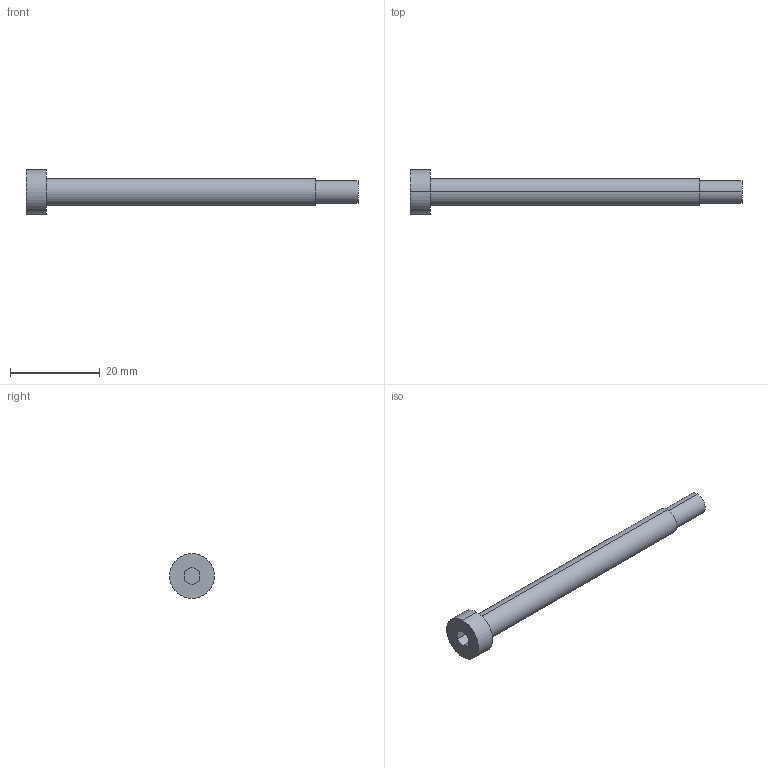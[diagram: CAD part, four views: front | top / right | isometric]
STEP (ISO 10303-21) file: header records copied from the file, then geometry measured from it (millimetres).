
FILE_DESCRIPTION (( 'STEP AP214' ), '1' );
FILE_NAME ('TPM-5x60.STEP', '2020-07-06T13:17:28', ( '' ), ( '' ), 'SwSTEP 2.0', 'SolidWorks 2018', '' );
FILE_SCHEMA (( 'AUTOMOTIVE_DESIGN' ));
Length unit declared in the file: millimetre
Products named in the file (1): TPM-5x60
Bounding box: 74 x 10 x 10 mm (x, y, z)
Volume: 2205.2 mm3; surface area: 1614.7 mm2
Topology: 1 solids, 1 shells, 17 faces, 36 edges, 24 vertices
Faces by surface type: plane 11, cylinder 6
Entity records: 496 total; most frequent: DIRECTION 84, CARTESIAN_POINT 78, ORIENTED_EDGE 72, EDGE_CURVE 36, AXIS2_PLACEMENT_3D 30, LINE 24, VERTEX_POINT 24, VECTOR 24
